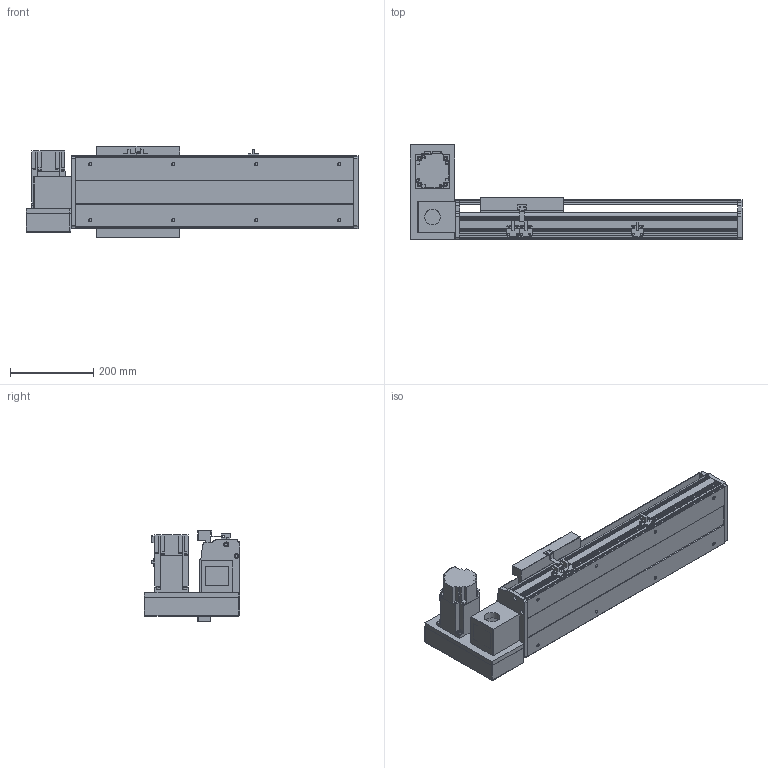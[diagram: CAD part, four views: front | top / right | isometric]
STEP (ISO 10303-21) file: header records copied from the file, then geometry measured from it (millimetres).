
FILE_DESCRIPTION(/* description */ ('STEP AP214'),/* implementation_level */ '2;1');
FILE_NAME(/* name */ 'PBS200-P40-S300-LU-T75-C1-N(0)',/* time_stamp */ '2022-06-11T08:58:44+02:00',/* author */ ('License CC BY-ND 4.0'),/* organization */ ('CADENAS'),/* preprocessor_version */ 'ST-DEVELOPER v18.102',/* originating_system */ 'PARTsolutions',/* authorisation */ ' ');
FILE_SCHEMA (('AUTOMOTIVE_DESIGN {1 0 10303 214 3 1 1}'));
Length unit declared in the file: millimetre
Products named in the file (7): PBS200-P40-S300-LU-T75-C1-N(0); PBS200_sensor; PBS200_plant; PBS200_sliser; T75-p1; PBS200T-LU_motors; PBS200-S300()_body
Assembly tree (8 placements, depth 2):
  PBS200-P40-S300-LU-T75-C1-N(0)
    PBS200_sensor  x3
    PBS200_plant
    PBS200_sliser
    T75-p1
    PBS200T-LU_motors
    PBS200-S300()_body
Bounding box: 800 x 231 x 221 mm (x, y, z)
Volume: 6866564.1 mm3; surface area: 1130156.7 mm2
Topology: 8 solids, 8 shells, 896 faces, 2334 edges, 1524 vertices
Faces by surface type: plane 566, cylinder 290, cone 40
Full cylindrical faces by diameter (mm): 2.459 x6, 3.242 x4, 4.5 x6, 4.917 x4, 5 x6, 6 x7, 6.6 x8, 6.647 x12, 8 x6, 10 x4, 12 x8, 38 x2, 40 x1, 70 x1
Entity records: 24101 total; most frequent: DIRECTION 4231, CARTESIAN_POINT 4120, ORIENTED_EDGE 3934, EDGE_CURVE 1967, AXIS2_PLACEMENT_3D 1459, VERTEX_POINT 1348, LINE 1313, VECTOR 1313
